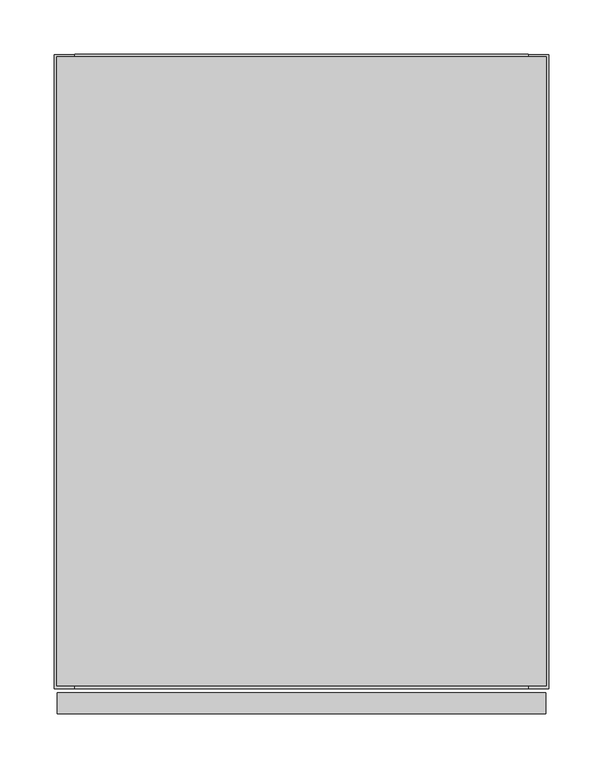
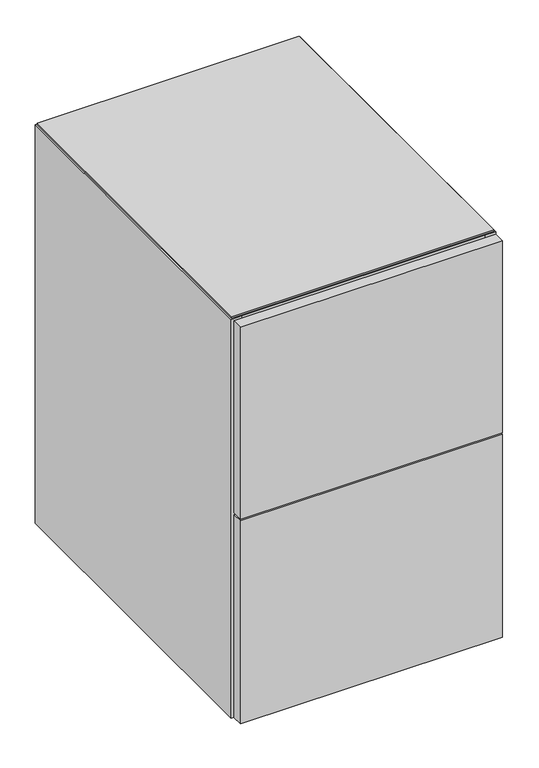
"""IFC4 building model written with IfcOpenShell, lengths in millimetres: furniture geometry, Geiger_GeigerOneCasegoods_LowStorage2Files : Vertical Veneer 18Wx24Dx28.75H."""

from ifc_helpers import new_model, si_unit, point, frame, origin, place, context, project, spatial, polyline, circle_curve, ellipse_curve, trimmed, outline, extrude, source, transform, mapped, element, save
from ifc_brep_helpers import plane_surface, cylinder_surface, revolved_surface, advanced_brep


def furniture_4adc1bd7(model_context):
    return source(origin(), model_context, "Body", "SolidModel", [
        extrude(outline(polyline([(19.0, -19.5), (438.2, -19.5), (438.2, -586.4), (19.0, -586.4), (19.0, -19.5)])), frame((0.0, 0.0, 73.2), z_axis=(0.0, 0.0, 1.0), x_axis=(1.0, 0.0, 0.0)), (0.0, 0.0, 1.0), 19.5072),
        extrude(outline(polyline([(3.0, -590.4), (454.2, -590.4), (454.2, -609.6), (3.0, -609.6), (3.0, -590.4)])), frame((0.0, 0.0, 15.7), z_axis=(0.0, 0.0, 1.0), x_axis=(1.0, 0.0, 0.0)), (0.0, 0.0, 1.0), 370.0),
        extrude(outline(polyline([(3.0, -590.4), (454.2, -590.4), (454.2, -609.6), (3.0, -609.6), (3.0, -590.4)])), frame((0.0, 0.0, 388.7), z_axis=(0.0, 0.0, 1.0), x_axis=(1.0, 0.0, 0.0)), (0.0, 0.0, 1.0), 350.0),
        extrude(outline(polyline([(19.0, -19.5), (438.2, -19.5), (438.2, -566.9), (19.0, -566.9), (19.0, -19.5)])), frame((0.0, 0.0, 12.7), z_axis=(0.0, 0.0, 1.0), x_axis=(1.0, 0.0, 0.0)), (0.0, 0.0, 1.0), 19.5),
        extrude(outline(polyline([(454.66, -2.54), (454.66, -583.86), (2.54, -583.86), (2.54, -2.54), (454.66, -2.54)])), frame((0.0, 0.0, 739.5), z_axis=(0.0, 0.0, 1.0), x_axis=(1.0, 0.0, 0.0)), (0.0, 0.0, 1.0), 3.2766),
        extrude(outline(polyline([(19.0, -95.7), (438.2, -95.7), (438.2, -586.4), (19.0, -586.4), (19.0, -95.7)])), frame((0.0, 0.0, 720.0), z_axis=(0.0, 0.0, 1.0), x_axis=(1.0, 0.0, 0.0)), (0.0, 0.0, 1.0), 19.5),
        extrude(outline(polyline([(438.2, -19.5), (19.0, -19.5), (19.0, 0.0), (438.2, 0.0), (438.2, -19.5)])), frame((0.0, 0.0, 12.7), z_axis=(0.0, 0.0, 1.0), x_axis=(1.0, 0.0, 0.0)), (0.0, 0.0, 1.0), 726.8),
        extrude(outline(polyline([(19.0, -566.9), (438.2, -566.9), (438.2, -586.4), (19.0, -586.4), (19.0, -566.9)])), frame((0.0, 0.0, 12.7), z_axis=(0.0, 0.0, 1.0), x_axis=(1.0, 0.0, 0.0)), (0.0, 0.0, 1.0), 60.5),
        extrude(outline(polyline([(19.0, -586.4), (0.0, -586.4), (0.0, -0.5), (19.0, -0.5), (19.0, -586.4)])), frame((0.0, 0.0, 12.7), z_axis=(0.0, 0.0, 1.0), x_axis=(1.0, 0.0, 0.0)), (0.0, 0.0, 1.0), 726.8),
        extrude(outline(polyline([(457.2, -586.4), (438.2, -586.4), (438.2, -0.5), (457.2, -0.5), (457.2, -586.4)])), frame((0.0, 0.0, 12.7), z_axis=(0.0, 0.0, 1.0), x_axis=(1.0, 0.0, 0.0)), (0.0, 0.0, 1.0), 726.8),
        advanced_brep(
        [(94.0575663, -528.9165105, 0.0), (71.9424337, -528.9165105, 0.0), (83.0, -528.9165105, 0.0), (94.0575663, -528.9165105, 9.5), (71.9424337, -528.9165105, 9.5), (87.066455, -528.9165105, 9.5), (78.933545, -528.9165105, 9.5), (87.066455, -528.9165105, 12.7), (78.933545, -528.9165105, 12.7), (83.0, -528.9165105, 12.7)],
        [
            (0, 1, circle_curve(frame((83.0, -528.9165105, 0.0), z_axis=(0.0, 0.0, -1.0), x_axis=(-1.0, 0.0, 0.0)), 11.0575663)),
            (1, 2),
            (2, 0),
            (1, 0, circle_curve(frame((83.0, -528.9165105, 0.0), z_axis=(0.0, 0.0, -1.0), x_axis=(-1.0, 0.0, 0.0)), 11.0575663)),
            (0, 3, circle_curve(frame((94.0575663, -528.9165105, 4.75), z_axis=(0.0, -1.0, 0.0), x_axis=(1.0, 0.0, 0.0)), 4.75)),
            (3, 4, circle_curve(frame((83.0, -528.9165105, 9.5), z_axis=(0.0, 0.0, -1.0), x_axis=(-1.0, 0.0, 0.0)), 11.0575663)),
            (4, 1, circle_curve(frame((71.9424337, -528.9165105, 4.75), z_axis=(0.0, -1.0, 0.0), x_axis=(-1.0, 0.0, 0.0)), 4.75)),
            (4, 3, circle_curve(frame((83.0, -528.9165105, 9.5), z_axis=(0.0, 0.0, -1.0), x_axis=(-1.0, 0.0, 0.0)), 11.0575663)),
            (3, 5),
            (5, 6, circle_curve(frame((83.0, -528.9165105, 9.5), z_axis=(0.0, 0.0, -1.0), x_axis=(-1.0, 0.0, 0.0)), 4.066455)),
            (6, 4),
            (6, 5, circle_curve(frame((83.0, -528.9165105, 9.5), z_axis=(0.0, 0.0, -1.0), x_axis=(-1.0, 0.0, 0.0)), 4.066455)),
            (5, 7),
            (7, 8, circle_curve(frame((83.0, -528.9165105, 12.7), z_axis=(0.0, 0.0, -1.0), x_axis=(-1.0, 0.0, 0.0)), 4.066455)),
            (8, 6),
            (8, 7, circle_curve(frame((83.0, -528.9165105, 12.7), z_axis=(0.0, 0.0, -1.0), x_axis=(-1.0, 0.0, 0.0)), 4.066455)),
            (7, 9),
            (9, 8),
        ],
        [
            plane_surface(frame((83.0, -528.9165105, 0.0), z_axis=(0.0, 0.0, -1.0), x_axis=(-1.0, 0.0, 0.0))),
            revolved_surface(trimmed(ellipse_curve(frame((71.9424337, -528.9165105, 4.75), z_axis=(0.0, 1.0, 0.0), x_axis=(-1.0, 0.0, 0.0)), 4.75, 4.75), [point((71.9424337, -528.9165105, 0.0))], [point((71.9424337, -528.9165105, 9.5))], True, "CARTESIAN"), (83.0, -528.9165105, 0.0), (0.0, 0.0, 1.0)),
            plane_surface(frame((83.0, -528.9165105, 9.5), z_axis=(0.0, 0.0, 1.0), x_axis=(-1.0, 0.0, 0.0))),
            cylinder_surface(frame((83.0, -528.9165105, 0.0), z_axis=(0.0, 0.0, 1.0), x_axis=(-1.0, 0.0, 0.0)), 4.066455),
            plane_surface(frame((83.0, -528.9165105, 12.7), z_axis=(0.0, 0.0, 1.0), x_axis=(-1.0, 0.0, 0.0))),
        ],
        [
            (0, [[1, 2, 3]]),
            (0, [[-2, 4, -3]]),
            (1, [[-1, 5, 6, 7]]),
            (1, [[-4, -7, 8, -5]]),
            (2, [[-6, 9, 10, 11]]),
            (2, [[-8, -11, 12, -9]]),
            (3, [[-10, 13, 14, 15]]),
            (3, [[-12, -15, 16, -13]]),
            (4, [[-14, 17, 18]]),
            (4, [[-16, -18, -17]]),
        ],
    ),
        advanced_brep(
        [(94.0575663, -127.0, 0.0), (71.9424337, -127.0, 0.0), (83.0, -127.0, 0.0), (94.0575663, -127.0, 9.5), (71.9424337, -127.0, 9.5), (87.066455, -127.0, 9.5), (78.933545, -127.0, 9.5), (87.066455, -127.0, 12.7), (78.933545, -127.0, 12.7), (83.0, -127.0, 12.7)],
        [
            (0, 1, circle_curve(frame((83.0, -127.0, 0.0), z_axis=(0.0, 0.0, -1.0), x_axis=(-1.0, 0.0, 0.0)), 11.0575663)),
            (1, 2),
            (2, 0),
            (1, 0, circle_curve(frame((83.0, -127.0, 0.0), z_axis=(0.0, 0.0, -1.0), x_axis=(-1.0, 0.0, 0.0)), 11.0575663)),
            (0, 3, circle_curve(frame((94.0575663, -127.0, 4.75), z_axis=(0.0, -1.0, 0.0), x_axis=(1.0, 0.0, 0.0)), 4.75)),
            (3, 4, circle_curve(frame((83.0, -127.0, 9.5), z_axis=(0.0, 0.0, -1.0), x_axis=(-1.0, 0.0, 0.0)), 11.0575663)),
            (4, 1, circle_curve(frame((71.9424337, -127.0, 4.75), z_axis=(0.0, -1.0, 0.0), x_axis=(-1.0, 0.0, 0.0)), 4.75)),
            (4, 3, circle_curve(frame((83.0, -127.0, 9.5), z_axis=(0.0, 0.0, -1.0), x_axis=(-1.0, 0.0, 0.0)), 11.0575663)),
            (3, 5),
            (5, 6, circle_curve(frame((83.0, -127.0, 9.5), z_axis=(0.0, 0.0, -1.0), x_axis=(-1.0, 0.0, 0.0)), 4.066455)),
            (6, 4),
            (6, 5, circle_curve(frame((83.0, -127.0, 9.5), z_axis=(0.0, 0.0, -1.0), x_axis=(-1.0, 0.0, 0.0)), 4.066455)),
            (5, 7),
            (7, 8, circle_curve(frame((83.0, -127.0, 12.7), z_axis=(0.0, 0.0, -1.0), x_axis=(-1.0, 0.0, 0.0)), 4.066455)),
            (8, 6),
            (8, 7, circle_curve(frame((83.0, -127.0, 12.7), z_axis=(0.0, 0.0, -1.0), x_axis=(-1.0, 0.0, 0.0)), 4.066455)),
            (7, 9),
            (9, 8),
        ],
        [
            plane_surface(frame((83.0, -127.0, 0.0), z_axis=(0.0, 0.0, -1.0), x_axis=(-1.0, 0.0, 0.0))),
            revolved_surface(trimmed(ellipse_curve(frame((71.9424337, -127.0, 4.75), z_axis=(0.0, 1.0, 0.0), x_axis=(-1.0, 0.0, 0.0)), 4.75, 4.75), [point((71.9424337, -127.0, 0.0))], [point((71.9424337, -127.0, 9.5))], True, "CARTESIAN"), (83.0, -127.0, 0.0), (0.0, 0.0, 1.0)),
            plane_surface(frame((83.0, -127.0, 9.5), z_axis=(0.0, 0.0, 1.0), x_axis=(-1.0, 0.0, 0.0))),
            cylinder_surface(frame((83.0, -127.0, 0.0), z_axis=(0.0, 0.0, 1.0), x_axis=(-1.0, 0.0, 0.0)), 4.066455),
            plane_surface(frame((83.0, -127.0, 12.7), z_axis=(0.0, 0.0, 1.0), x_axis=(-1.0, 0.0, 0.0))),
        ],
        [
            (0, [[1, 2, 3]]),
            (0, [[-2, 4, -3]]),
            (1, [[-1, 5, 6, 7]]),
            (1, [[-4, -7, 8, -5]]),
            (2, [[-6, 9, 10, 11]]),
            (2, [[-8, -11, 12, -9]]),
            (3, [[-10, 13, 14, 15]]),
            (3, [[-12, -15, 16, -13]]),
            (4, [[-14, 17, 18]]),
            (4, [[-16, -18, -17]]),
        ],
    ),
        advanced_brep(
        [(374.2, -528.9165105, 0.0), (385.2575663, -528.9165105, 0.0), (363.1424337, -528.9165105, 0.0), (385.2575663, -528.9165105, 9.5), (363.1424337, -528.9165105, 9.5), (378.266455, -528.9165105, 9.5), (370.133545, -528.9165105, 9.5), (378.266455, -528.9165105, 12.7), (370.133545, -528.9165105, 12.7), (374.2, -528.9165105, 12.7)],
        [
            (0, 1),
            (1, 2, circle_curve(frame((374.2, -528.9165105, 0.0), z_axis=(0.0, 0.0, -1.0), x_axis=(1.0, 0.0, 0.0)), 11.0575663)),
            (2, 0),
            (2, 1, circle_curve(frame((374.2, -528.9165105, 0.0), z_axis=(0.0, 0.0, -1.0), x_axis=(1.0, 0.0, 0.0)), 11.0575663)),
            (1, 3, circle_curve(frame((385.2575663, -528.9165105, 4.75), z_axis=(0.0, -1.0, 0.0), x_axis=(-1.0, 0.0, 0.0)), 4.75)),
            (3, 4, circle_curve(frame((374.2, -528.9165105, 9.5), z_axis=(0.0, 0.0, -1.0), x_axis=(1.0, 0.0, 0.0)), 11.0575663)),
            (4, 2, circle_curve(frame((363.1424337, -528.9165105, 4.75), z_axis=(0.0, -1.0, 0.0), x_axis=(1.0, 0.0, 0.0)), 4.75)),
            (4, 3, circle_curve(frame((374.2, -528.9165105, 9.5), z_axis=(0.0, 0.0, -1.0), x_axis=(1.0, 0.0, 0.0)), 11.0575663)),
            (3, 5),
            (5, 6, circle_curve(frame((374.2, -528.9165105, 9.5), z_axis=(0.0, 0.0, -1.0), x_axis=(1.0, 0.0, 0.0)), 4.066455)),
            (6, 4),
            (6, 5, circle_curve(frame((374.2, -528.9165105, 9.5), z_axis=(0.0, 0.0, -1.0), x_axis=(1.0, 0.0, 0.0)), 4.066455)),
            (5, 7),
            (7, 8, circle_curve(frame((374.2, -528.9165105, 12.7), z_axis=(0.0, 0.0, -1.0), x_axis=(1.0, 0.0, 0.0)), 4.066455)),
            (8, 6),
            (8, 7, circle_curve(frame((374.2, -528.9165105, 12.7), z_axis=(0.0, 0.0, -1.0), x_axis=(1.0, 0.0, 0.0)), 4.066455)),
            (7, 9),
            (9, 8),
        ],
        [
            plane_surface(frame((374.2, -528.9165105, 0.0), z_axis=(0.0, 0.0, -1.0), x_axis=(1.0, 0.0, 0.0))),
            revolved_surface(trimmed(ellipse_curve(frame((385.2575663, -528.9165105, 4.75), z_axis=(0.0, 1.0, 0.0), x_axis=(-1.0, 0.0, 0.0)), 4.75, 4.75), [point((385.2575663, -528.9165105, 9.5))], [point((385.2575663, -528.9165105, 0.0))], True, "CARTESIAN"), (374.2, -528.9165105, 0.0), (0.0, 0.0, -1.0)),
            plane_surface(frame((374.2, -528.9165105, 9.5), z_axis=(0.0, 0.0, 1.0), x_axis=(1.0, 0.0, 0.0))),
            cylinder_surface(frame((374.2, -528.9165105, 0.0), z_axis=(0.0, 0.0, -1.0), x_axis=(1.0, 0.0, 0.0)), 4.066455),
            plane_surface(frame((374.2, -528.9165105, 12.7), z_axis=(0.0, 0.0, 1.0), x_axis=(1.0, 0.0, 0.0))),
        ],
        [
            (0, [[1, 2, 3]]),
            (0, [[-1, -3, 4]]),
            (1, [[-2, 5, 6, 7]]),
            (1, [[-4, -7, 8, -5]]),
            (2, [[-6, 9, 10, 11]]),
            (2, [[-8, -11, 12, -9]]),
            (3, [[-10, 13, 14, 15]]),
            (3, [[-12, -15, 16, -13]]),
            (4, [[-14, 17, 18]]),
            (4, [[-16, -18, -17]]),
        ],
    ),
        advanced_brep(
        [(374.2, -127.0, 0.0), (385.2575663, -127.0, 0.0), (363.1424337, -127.0, 0.0), (385.2575663, -127.0, 9.5), (363.1424337, -127.0, 9.5), (378.266455, -127.0, 9.5), (370.133545, -127.0, 9.5), (378.266455, -127.0, 12.7), (370.133545, -127.0, 12.7), (374.2, -127.0, 12.7)],
        [
            (0, 1),
            (1, 2, circle_curve(frame((374.2, -127.0, 0.0), z_axis=(0.0, 0.0, -1.0), x_axis=(1.0, 0.0, 0.0)), 11.0575663)),
            (2, 0),
            (2, 1, circle_curve(frame((374.2, -127.0, 0.0), z_axis=(0.0, 0.0, -1.0), x_axis=(1.0, 0.0, 0.0)), 11.0575663)),
            (1, 3, circle_curve(frame((385.2575663, -127.0, 4.75), z_axis=(0.0, -1.0, 0.0), x_axis=(-1.0, 0.0, 0.0)), 4.75)),
            (3, 4, circle_curve(frame((374.2, -127.0, 9.5), z_axis=(0.0, 0.0, -1.0), x_axis=(1.0, 0.0, 0.0)), 11.0575663)),
            (4, 2, circle_curve(frame((363.1424337, -127.0, 4.75), z_axis=(0.0, -1.0, 0.0), x_axis=(1.0, 0.0, 0.0)), 4.75)),
            (4, 3, circle_curve(frame((374.2, -127.0, 9.5), z_axis=(0.0, 0.0, -1.0), x_axis=(1.0, 0.0, 0.0)), 11.0575663)),
            (3, 5),
            (5, 6, circle_curve(frame((374.2, -127.0, 9.5), z_axis=(0.0, 0.0, -1.0), x_axis=(1.0, 0.0, 0.0)), 4.066455)),
            (6, 4),
            (6, 5, circle_curve(frame((374.2, -127.0, 9.5), z_axis=(0.0, 0.0, -1.0), x_axis=(1.0, 0.0, 0.0)), 4.066455)),
            (5, 7),
            (7, 8, circle_curve(frame((374.2, -127.0, 12.7), z_axis=(0.0, 0.0, -1.0), x_axis=(1.0, 0.0, 0.0)), 4.066455)),
            (8, 6),
            (8, 7, circle_curve(frame((374.2, -127.0, 12.7), z_axis=(0.0, 0.0, -1.0), x_axis=(1.0, 0.0, 0.0)), 4.066455)),
            (7, 9),
            (9, 8),
        ],
        [
            plane_surface(frame((374.2, -127.0, 0.0), z_axis=(0.0, 0.0, -1.0), x_axis=(1.0, 0.0, 0.0))),
            revolved_surface(trimmed(ellipse_curve(frame((385.2575663, -127.0, 4.75), z_axis=(0.0, 1.0, 0.0), x_axis=(-1.0, 0.0, 0.0)), 4.75, 4.75), [point((385.2575663, -127.0, 9.5))], [point((385.2575663, -127.0, 0.0))], True, "CARTESIAN"), (374.2, -127.0, 0.0), (0.0, 0.0, -1.0)),
            plane_surface(frame((374.2, -127.0, 9.5), z_axis=(0.0, 0.0, 1.0), x_axis=(1.0, 0.0, 0.0))),
            cylinder_surface(frame((374.2, -127.0, 0.0), z_axis=(0.0, 0.0, -1.0), x_axis=(1.0, 0.0, 0.0)), 4.066455),
            plane_surface(frame((374.2, -127.0, 12.7), z_axis=(0.0, 0.0, 1.0), x_axis=(1.0, 0.0, 0.0))),
        ],
        [
            (0, [[1, 2, 3]]),
            (0, [[-1, -3, 4]]),
            (1, [[-2, 5, 6, 7]]),
            (1, [[-4, -7, 8, -5]]),
            (2, [[-6, 9, 10, 11]]),
            (2, [[-8, -11, 12, -9]]),
            (3, [[-10, 13, 14, 15]]),
            (3, [[-12, -15, 16, -13]]),
            (4, [[-14, 17, 18]]),
            (4, [[-16, -18, -17]]),
        ],
    ),
    ])


if __name__ == "__main__":
    model = new_model("IFC4")
    model_context = context("Model", 3, world=origin())
    ifc_project = project(units=[si_unit("LENGTHUNIT", "METRE", prefix="MILLI")], contexts=[model_context])
    site = spatial("IfcSite", under=ifc_project)
    building = spatial("IfcBuilding", under=site)
    placement = place(None, origin())
    furniture_shape = furniture_4adc1bd7(model_context)
    element("IfcFurniture", 1, ObjectType="Geiger_GeigerOneCasegoods_LowStorage2Files : Vertical Veneer 18Wx24Dx28.75H", at=placement, inside=building, context=model_context, shape_type="MappedRepresentation", body=[
        mapped(furniture_shape, transform((0.0, 0.0, 0.0), x_axis=(1.0, 0.0, 0.0), y_axis=(0.0, 1.0, 0.0), z_axis=(0.0, 0.0, 1.0))),
    ])
    save(model, "model.ifc")
